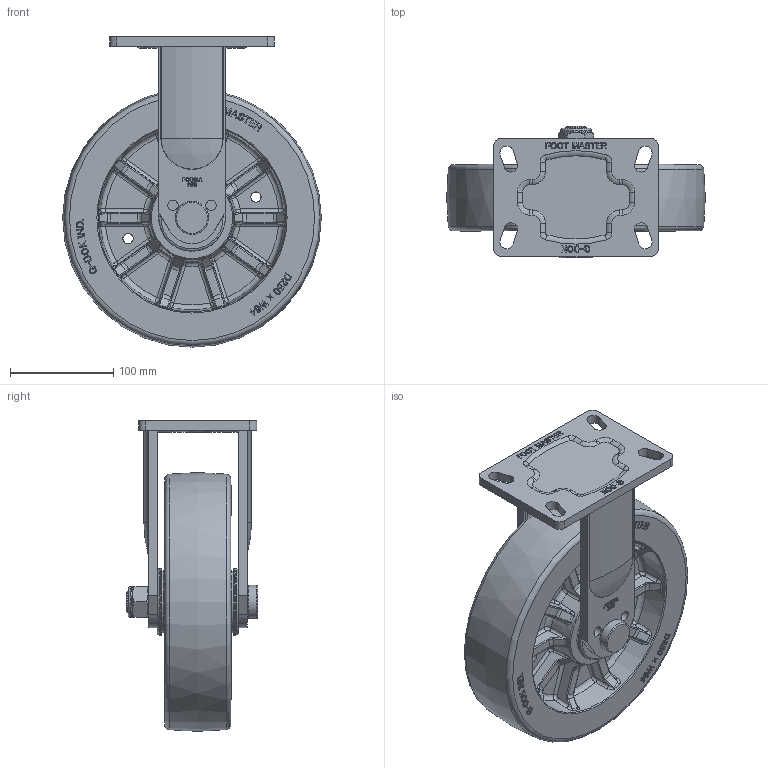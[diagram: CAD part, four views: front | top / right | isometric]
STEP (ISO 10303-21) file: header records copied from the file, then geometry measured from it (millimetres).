
FILE_DESCRIPTION(/* description */ (''),/* implementation_level */ '2;1');
FILE_NAME(/* name */ 'E:\개발도면\GF-SERIES\GF-250\인벤터\홈페이지용 도면-20150310\STEP\GF-250-ARF-MUD.stp',/* time_stamp */ '2015-03-17T19:51:29+09:00',/* author */ ('장용하'),/* organization */ (''),/* preprocessor_version */ 'ST-DEVELOPER v15.6',/* originating_system */ 'Autodesk Inventor 2015',/* authorisation */ '');
FILE_SCHEMA (('AUTOMOTIVE_DESIGN { 1 0 10303 214 3 1 1 }'));
Products named in the file (1): GF-250-ARF-MUD
Bounding box: 250 x 127 x 299.98 mm (x, y, z)
Volume: 2533057.9 mm3; surface area: 308938.7 mm2
Topology: 1 solids, 3 shells, 2059 faces, 5384 edges, 3379 vertices
Faces by surface type: bspline 841, plane 739, cylinder 349, torus 90, cone 32, sphere 8
Full cylindrical faces by diameter (mm): 10 x4, 20 x5, 20.2 x2, 24.9 x2, 30 x1, 32 x1, 34 x2, 43 x2, 64.519 x2
Entity records: 73766 total; most frequent: CARTESIAN_POINT 26593, ORIENTED_EDGE 10566, DIRECTION 7412, EDGE_CURVE 5281, VERTEX_POINT 3357, LINE 2524, VECTOR 2524, AXIS2_PLACEMENT_3D 2444
